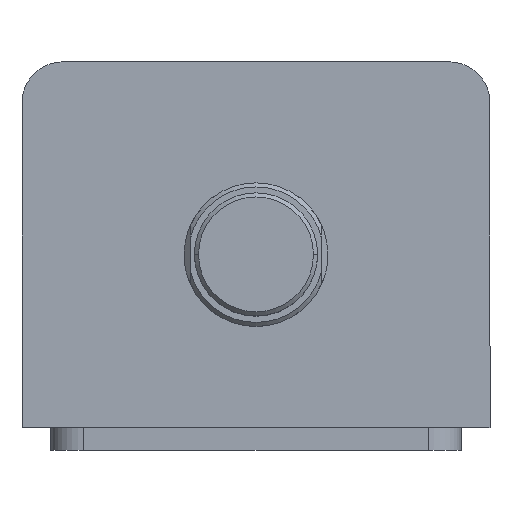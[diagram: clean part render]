
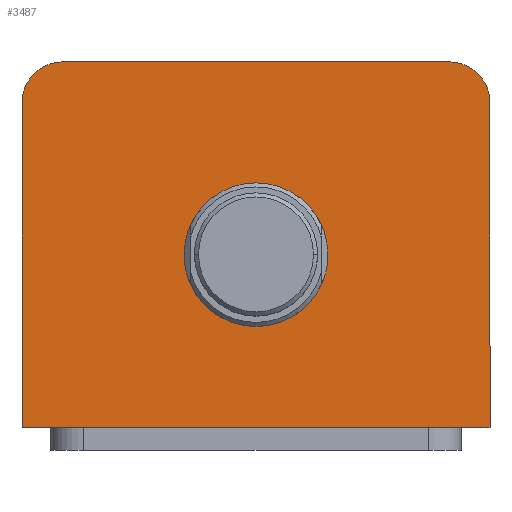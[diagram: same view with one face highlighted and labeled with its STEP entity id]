
A CAD part, top view. The second image highlights one B-rep face of the part: STEP entity #3487.
In plain terms, the highlighted planar face has unit normal (0, 0, 1).
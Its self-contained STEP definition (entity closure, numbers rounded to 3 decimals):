
#26 = CARTESIAN_POINT ( 'NONE',  ( 47., 34.5, 112. ) ) ;
#27 = DIRECTION ( 'NONE',  ( 0., 0., 1. ) ) ;
#28 = DIRECTION ( 'NONE',  ( 1., 0., 0. ) ) ;
#54 = CARTESIAN_POINT ( 'NONE',  ( -47., 34.5, 112. ) ) ;
#55 = DIRECTION ( 'NONE',  ( 0., 0., 1. ) ) ;
#56 = DIRECTION ( 'NONE',  ( 1., 0., 0. ) ) ;
#227 = CARTESIAN_POINT ( 'NONE',  ( -17.5, -2.5, 112. ) ) ;
#228 = CARTESIAN_POINT ( 'NONE',  ( -57., -44.5, 112. ) ) ;
#229 = CARTESIAN_POINT ( 'NONE',  ( 17.5, -2.5, 112. ) ) ;
#233 = CARTESIAN_POINT ( 'NONE',  ( 57., -44.5, 112. ) ) ;
#249 = CARTESIAN_POINT ( 'NONE',  ( 57., 34.5, 112. ) ) ;
#261 = CARTESIAN_POINT ( 'NONE',  ( 47., 44.5, 112. ) ) ;
#264 = CARTESIAN_POINT ( 'NONE',  ( -47., 44.5, 112. ) ) ;
#272 = CARTESIAN_POINT ( 'NONE',  ( -57., 34.5, 112. ) ) ;
#502 = LINE ( 'NONE', #3114, #506 ) ;
#506 = VECTOR ( 'NONE', #3120, 1000. ) ;
#535 = FACE_BOUND ( 'NONE', #2180, .T. ) ;
#554 = FACE_OUTER_BOUND ( 'NONE', #2192, .T. ) ;
#747 = CARTESIAN_POINT ( 'NONE',  ( 57., 44.5, 112. ) ) ;
#748 = DIRECTION ( 'NONE',  ( 0., 1., 0. ) ) ;
#795 = CARTESIAN_POINT ( 'NONE',  ( -57., 44.5, 112. ) ) ;
#796 = DIRECTION ( 'NONE',  ( -1., 0., 0. ) ) ;
#846 = CIRCLE ( 'NONE', #3215, 17.5 ) ;
#854 = CIRCLE ( 'NONE', #3212, 17.5 ) ;
#863 = LINE ( 'NONE', #1780, #870 ) ;
#870 = VECTOR ( 'NONE', #1790, 1000. ) ;
#912 = LINE ( 'NONE', #747, #915 ) ;
#915 = VECTOR ( 'NONE', #748, 1000. ) ;
#942 = LINE ( 'NONE', #795, #945 ) ;
#945 = VECTOR ( 'NONE', #796, 1000. ) ;
#1068 = CIRCLE ( 'NONE', #3185, 10. ) ;
#1078 = CIRCLE ( 'NONE', #3178, 10. ) ;
#1463 = ORIENTED_EDGE ( 'NONE', *, *, #3721, .F. ) ;
#1464 = ORIENTED_EDGE ( 'NONE', *, *, #3718, .F. ) ;
#1465 = ORIENTED_EDGE ( 'NONE', *, *, #3775, .T. ) ;
#1466 = ORIENTED_EDGE ( 'NONE', *, *, #3804, .T. ) ;
#1467 = ORIENTED_EDGE ( 'NONE', *, *, #3429, .T. ) ;
#1468 = ORIENTED_EDGE ( 'NONE', *, *, #3730, .T. ) ;
#1469 = ORIENTED_EDGE ( 'NONE', *, *, #3756, .T. ) ;
#1470 = ORIENTED_EDGE ( 'NONE', *, *, #3795, .T. ) ;
#1758 = CARTESIAN_POINT ( 'NONE',  ( 0., -2.5, 112. ) ) ;
#1759 = DIRECTION ( 'NONE',  ( 0., 0., 1. ) ) ;
#1760 = DIRECTION ( 'NONE',  ( 1., 0., 0. ) ) ;
#1765 = CARTESIAN_POINT ( 'NONE',  ( 0., -2.5, 112. ) ) ;
#1766 = DIRECTION ( 'NONE',  ( 0., 0., 1. ) ) ;
#1767 = DIRECTION ( 'NONE',  ( 1., 0., 0. ) ) ;
#1780 = CARTESIAN_POINT ( 'NONE',  ( -57., -44.5, 112. ) ) ;
#1790 = DIRECTION ( 'NONE',  ( 1., 0., 0. ) ) ;
#2180 = EDGE_LOOP ( 'NONE', ( #1463, #1464 ) ) ;
#2192 = EDGE_LOOP ( 'NONE', ( #1465, #1466, #1467, #1468, #1469, #1470 ) ) ;
#2257 = VERTEX_POINT ( 'NONE', #227 ) ;
#2258 = VERTEX_POINT ( 'NONE', #228 ) ;
#2259 = VERTEX_POINT ( 'NONE', #229 ) ;
#2263 = VERTEX_POINT ( 'NONE', #233 ) ;
#2279 = VERTEX_POINT ( 'NONE', #249 ) ;
#2291 = VERTEX_POINT ( 'NONE', #261 ) ;
#2294 = VERTEX_POINT ( 'NONE', #264 ) ;
#2302 = VERTEX_POINT ( 'NONE', #272 ) ;
#2354 = PLANE ( 'NONE',  #3428 ) ;
#2356 = CARTESIAN_POINT ( 'NONE',  ( 0., 0., 112. ) ) ;
#2361 = DIRECTION ( 'NONE',  ( 0., 0., 1. ) ) ;
#2362 = DIRECTION ( 'NONE',  ( 1., 0., 0. ) ) ;
#3114 = CARTESIAN_POINT ( 'NONE',  ( -57., 44.5, 112. ) ) ;
#3120 = DIRECTION ( 'NONE',  ( 0., -1., 0. ) ) ;
#3178 = AXIS2_PLACEMENT_3D ( 'NONE', #54, #55, #56 ) ;
#3185 = AXIS2_PLACEMENT_3D ( 'NONE', #26, #27, #28 ) ;
#3212 = AXIS2_PLACEMENT_3D ( 'NONE', #1765, #1766, #1767 ) ;
#3215 = AXIS2_PLACEMENT_3D ( 'NONE', #1758, #1759, #1760 ) ;
#3428 = AXIS2_PLACEMENT_3D ( 'NONE', #2356, #2361, #2362 ) ;
#3429 = EDGE_CURVE ( 'NONE', #2302, #2258, #502, .T. ) ;
#3487 = ADVANCED_FACE ( 'NONE', ( #535, #554 ), #2354, .T. ) ;
#3718 = EDGE_CURVE ( 'NONE', #2257, #2259, #846, .T. ) ;
#3721 = EDGE_CURVE ( 'NONE', #2259, #2257, #854, .T. ) ;
#3730 = EDGE_CURVE ( 'NONE', #2258, #2263, #863, .T. ) ;
#3756 = EDGE_CURVE ( 'NONE', #2263, #2279, #912, .T. ) ;
#3775 = EDGE_CURVE ( 'NONE', #2291, #2294, #942, .T. ) ;
#3795 = EDGE_CURVE ( 'NONE', #2279, #2291, #1068, .T. ) ;
#3804 = EDGE_CURVE ( 'NONE', #2294, #2302, #1078, .T. ) ;
